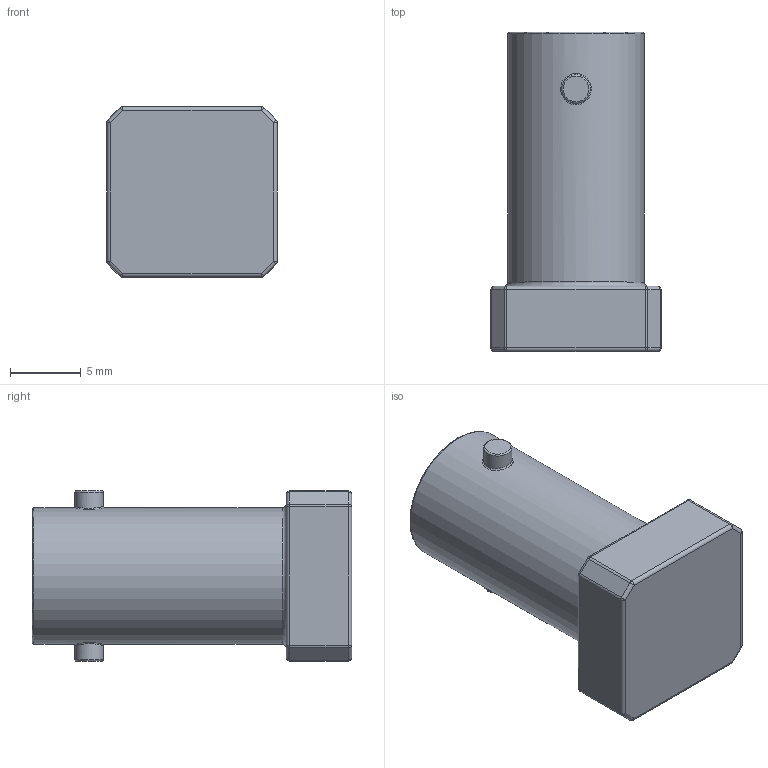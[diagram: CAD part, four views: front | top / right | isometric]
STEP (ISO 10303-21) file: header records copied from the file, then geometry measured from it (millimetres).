
FILE_DESCRIPTION(/* description */ (''),/* implementation_level */ '2;1');
FILE_NAME(/* name */ 'C:/Users/Jeroen/CloudStation/Projects/42 Autodesk fusion360/Hirschmann PKI 10 A Banana plug/BNC v3.step',/* time_stamp */ '2017-10-15T20:45:37+02:00',/* author */ ('lodderj'),/* organization */ (''),/* preprocessor_version */ 'ST-DEVELOPER v16.13',/* originating_system */ 'Autodesk Translation Framework v6.5.0.72',/* authorisation */ '');
FILE_SCHEMA (('AUTOMOTIVE_DESIGN { 1 0 10303 214 3 1 1 }'));
Length unit declared in the file: millimetre
Products named in the file (1): BNC v3
Bounding box: 12 x 22.5 x 12 mm (x, y, z)
Volume: 753.3 mm3; surface area: 1551.5 mm2
Topology: 1 solids, 1 shells, 65 faces, 137 edges, 77 vertices
Faces by surface type: cylinder 28, sphere 16, plane 13, torus 5, bspline 2, cone 1
Full cylindrical faces by diameter (mm): 2 x2, 9 x1, 9.6 x1
Entity records: 1963 total; most frequent: CARTESIAN_POINT 501, DIRECTION 335, ORIENTED_EDGE 272, AXIS2_PLACEMENT_3D 141, EDGE_CURVE 136, CIRCLE 77, VERTEX_POINT 77, EDGE_LOOP 69
